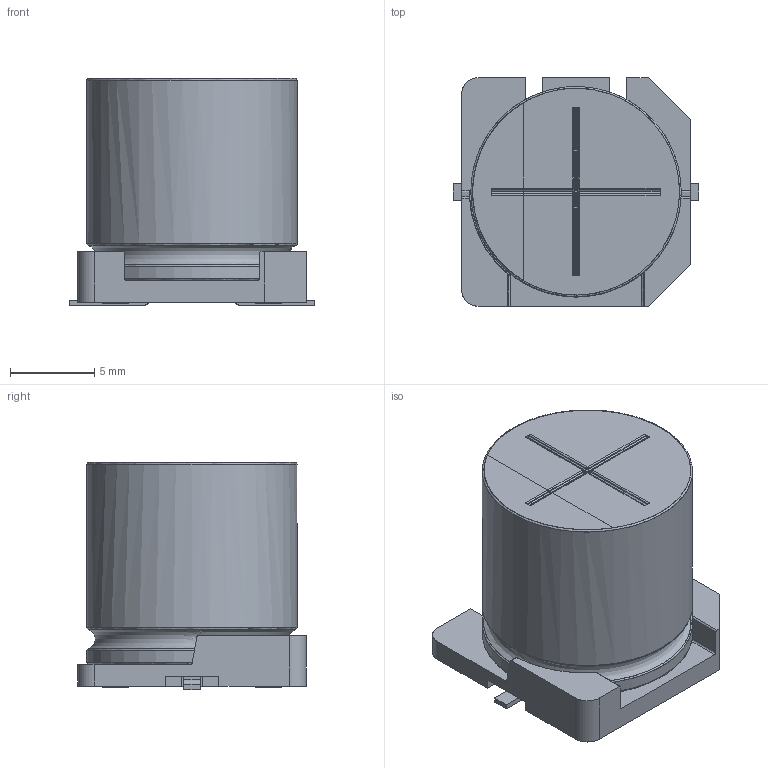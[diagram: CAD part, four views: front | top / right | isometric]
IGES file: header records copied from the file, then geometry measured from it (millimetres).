
Start section: JAMA-IS VERSION  1.0
Bounding box: 14.6 x 13.6 x 13.5 mm (x, y, z)
Surface area: 1302.6 mm2 (no closed solid volume)
Topology: 0 solids, 0 shells, 146 faces, 1299 edges, 1278 vertices
Faces by surface type: bspline 146
